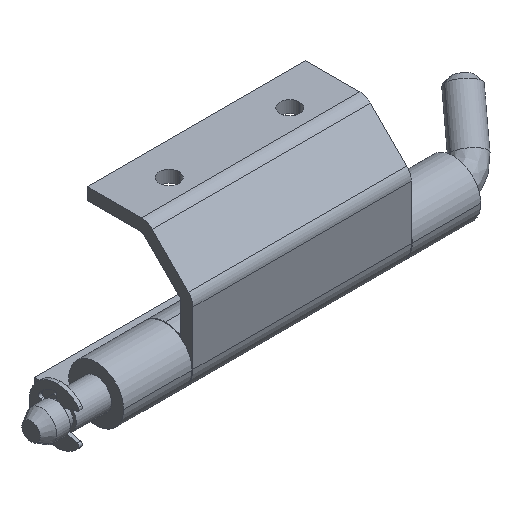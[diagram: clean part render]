
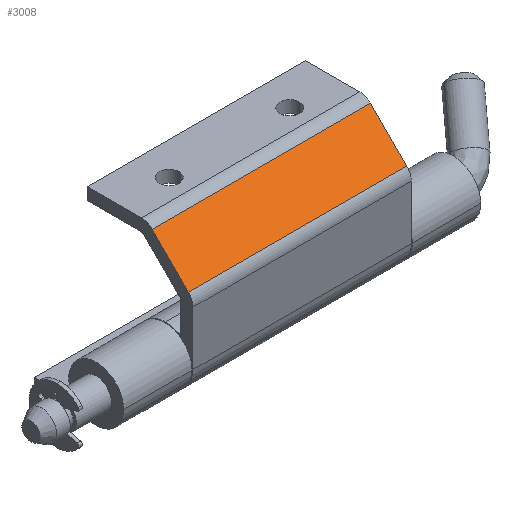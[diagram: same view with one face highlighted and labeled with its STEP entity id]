
A CAD part, isometric view. The second image highlights one B-rep face of the part: STEP entity #3008.
In plain terms, the highlighted planar face has unit normal (0, -0.707, 0.707).
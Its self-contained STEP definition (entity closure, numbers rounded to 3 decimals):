
#94 = EDGE_CURVE ( 'NONE', #1234, #3152, #2239, .T. ) ;
#177 = EDGE_CURVE ( 'NONE', #3152, #2656, #2124, .T. ) ;
#255 = DIRECTION ( 'NONE',  ( 0., 0.707, 0.707 ) ) ;
#356 = AXIS2_PLACEMENT_3D ( 'NONE', #1267, #1767, #255 ) ;
#371 = ORIENTED_EDGE ( 'NONE', *, *, #2306, .F. ) ;
#381 = LINE ( 'NONE', #1202, #2960 ) ;
#436 = VERTEX_POINT ( 'NONE', #2215 ) ;
#443 = LINE ( 'NONE', #2205, #3017 ) ;
#619 = FACE_OUTER_BOUND ( 'NONE', #1640, .T. ) ;
#947 = CARTESIAN_POINT ( 'NONE',  ( 18.1, -8.018, 1.982 ) ) ;
#996 = DIRECTION ( 'NONE',  ( -1., 0., 0. ) ) ;
#1120 = DIRECTION ( 'NONE',  ( 1., 0., 0. ) ) ;
#1202 = CARTESIAN_POINT ( 'NONE',  ( -18.1, -8.018, 1.982 ) ) ;
#1212 = DIRECTION ( 'NONE',  ( 0., 0.707, 0.707 ) ) ;
#1234 = VERTEX_POINT ( 'NONE', #1253 ) ;
#1253 = CARTESIAN_POINT ( 'NONE',  ( -18.1, -1.982, 8.018 ) ) ;
#1267 = CARTESIAN_POINT ( 'NONE',  ( 18.1, -1.25, 8.75 ) ) ;
#1577 = VECTOR ( 'NONE', #1120, 1000. ) ;
#1597 = CARTESIAN_POINT ( 'NONE',  ( 18.1, -1.25, 8.75 ) ) ;
#1640 = EDGE_LOOP ( 'NONE', ( #371, #2624, #2161, #2465 ) ) ;
#1767 = DIRECTION ( 'NONE',  ( 0., 0.707, -0.707 ) ) ;
#2016 = PLANE ( 'NONE',  #356 ) ;
#2067 = CARTESIAN_POINT ( 'NONE',  ( 18.1, -1.982, 8.018 ) ) ;
#2096 = DIRECTION ( 'NONE',  ( 0., -0.707, -0.707 ) ) ;
#2124 = LINE ( 'NONE', #1597, #2704 ) ;
#2161 = ORIENTED_EDGE ( 'NONE', *, *, #94, .F. ) ;
#2205 = CARTESIAN_POINT ( 'NONE',  ( 18.1, -8.018, 1.982 ) ) ;
#2215 = CARTESIAN_POINT ( 'NONE',  ( -18.1, -8.018, 1.982 ) ) ;
#2239 = LINE ( 'NONE', #2767, #1577 ) ;
#2306 = EDGE_CURVE ( 'NONE', #2656, #436, #443, .T. ) ;
#2465 = ORIENTED_EDGE ( 'NONE', *, *, #2701, .F. ) ;
#2624 = ORIENTED_EDGE ( 'NONE', *, *, #177, .F. ) ;
#2656 = VERTEX_POINT ( 'NONE', #947 ) ;
#2701 = EDGE_CURVE ( 'NONE', #436, #1234, #381, .T. ) ;
#2704 = VECTOR ( 'NONE', #2096, 1000. ) ;
#2767 = CARTESIAN_POINT ( 'NONE',  ( 18.1, -1.982, 8.018 ) ) ;
#2960 = VECTOR ( 'NONE', #1212, 1000. ) ;
#3008 = ADVANCED_FACE ( 'NONE', ( #619 ), #2016, .F. ) ;
#3017 = VECTOR ( 'NONE', #996, 1000. ) ;
#3152 = VERTEX_POINT ( 'NONE', #2067 ) ;
